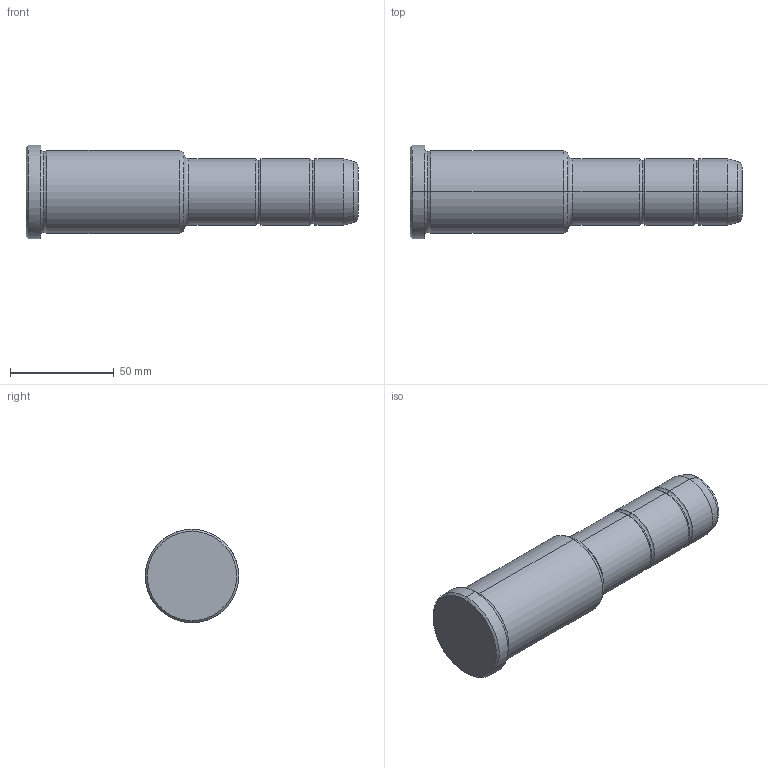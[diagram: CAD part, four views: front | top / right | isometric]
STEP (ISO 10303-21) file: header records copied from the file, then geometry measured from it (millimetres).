
FILE_DESCRIPTION(('CATIA V5 STEP Exchange'),'2;1');
FILE_NAME('C:\Users\Utente\Desktop\IO LAVORO\3D X SITO CF\X SITO\PLASTICA\351\351-32X76X160.stp','2021-09-07T13:54:43+00:00',('none'),('none'),'CATIA Version 5 Release 20 GA (IN-10)','CATIA V5 STEP AP203','none');
FILE_SCHEMA(('CONFIG_CONTROL_DESIGN'));
Length unit declared in the file: millimetre
Products named in the file (1): 351-32X76X160
Bounding box: 160 x 45 x 45 mm (x, y, z)
Volume: 164192.5 mm3; surface area: 20856.5 mm2
Topology: 1 solids, 1 shells, 36 faces, 102 edges, 70 vertices
Faces by surface type: torus 16, cylinder 10, cone 6, plane 4
Entity records: 1292 total; most frequent: CARTESIAN_POINT 321, ORIENTED_EDGE 204, DIRECTION 166, AXIS2_PLACEMENT_3D 115, EDGE_CURVE 102, CIRCLE 78, VERTEX_POINT 70, EDGE_LOOP 38
